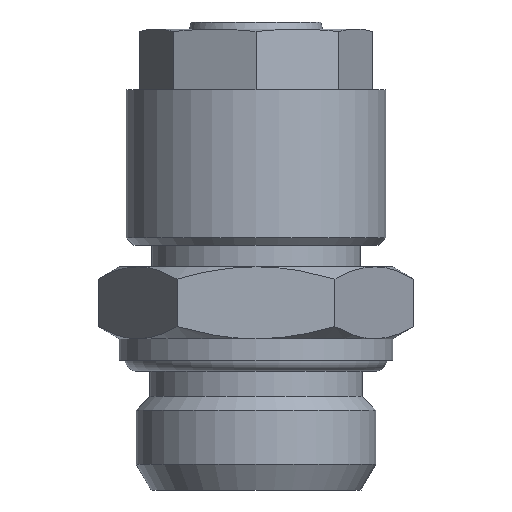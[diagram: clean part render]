
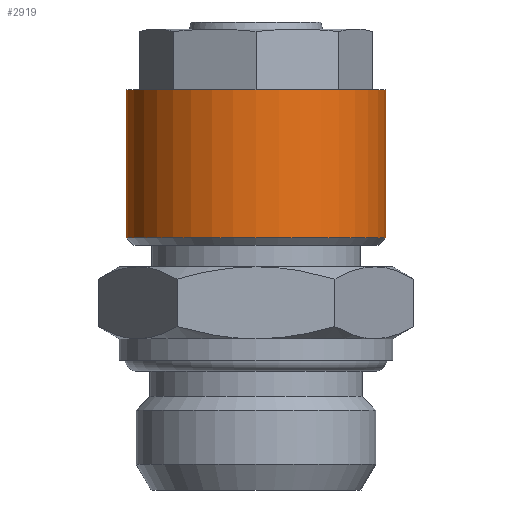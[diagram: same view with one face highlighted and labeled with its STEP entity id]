
A CAD part, front view. The second image highlights one B-rep face of the part: STEP entity #2919.
In plain terms, the highlighted cylindrical face has radius 9 mm (diameter 18 mm), a full revolution.
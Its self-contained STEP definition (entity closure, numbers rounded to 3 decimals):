
#1491=ORIENTED_EDGE('',*,*,#1793,.F.);
#1492=ORIENTED_EDGE('',*,*,#1792,.T.);
#1626=CIRCLE('',#2800,9.);
#1627=CIRCLE('',#2802,9.);
#1692=VERTEX_POINT('',#2580);
#1693=VERTEX_POINT('',#2583);
#1792=EDGE_CURVE('',#1692,#1692,#1626,.T.);
#1793=EDGE_CURVE('',#1693,#1693,#1627,.T.);
#1911=EDGE_LOOP('',(#1491));
#1912=EDGE_LOOP('',(#1492));
#2017=FACE_BOUND('',#1911,.T.);
#2018=FACE_BOUND('',#1912,.T.);
#2273=DIRECTION('',(0.,1.,0.));
#2274=DIRECTION('',(0.,0.,9.));
#2275=DIRECTION('',(0.,1.,0.));
#2276=DIRECTION('',(1.,0.,0.));
#2277=DIRECTION('',(0.,1.,0.));
#2278=DIRECTION('',(0.,0.,-9.));
#2580=CARTESIAN_POINT('',(26.989,15.095,9.));
#2581=CARTESIAN_POINT('',(26.989,15.095,0.));
#2582=CARTESIAN_POINT('',(26.989,15.095,0.));
#2583=CARTESIAN_POINT('',(26.989,25.395,-9.));
#2584=CARTESIAN_POINT('',(26.989,25.395,0.));
#2800=AXIS2_PLACEMENT_3D('',#2581,#2273,#2274);
#2801=AXIS2_PLACEMENT_3D('',#2582,#2275,#2276);
#2802=AXIS2_PLACEMENT_3D('',#2584,#2277,#2278);
#2872=CYLINDRICAL_SURFACE('',#2801,9.);
#2919=ADVANCED_FACE('',(#2017,#2018),#2872,.T.);
